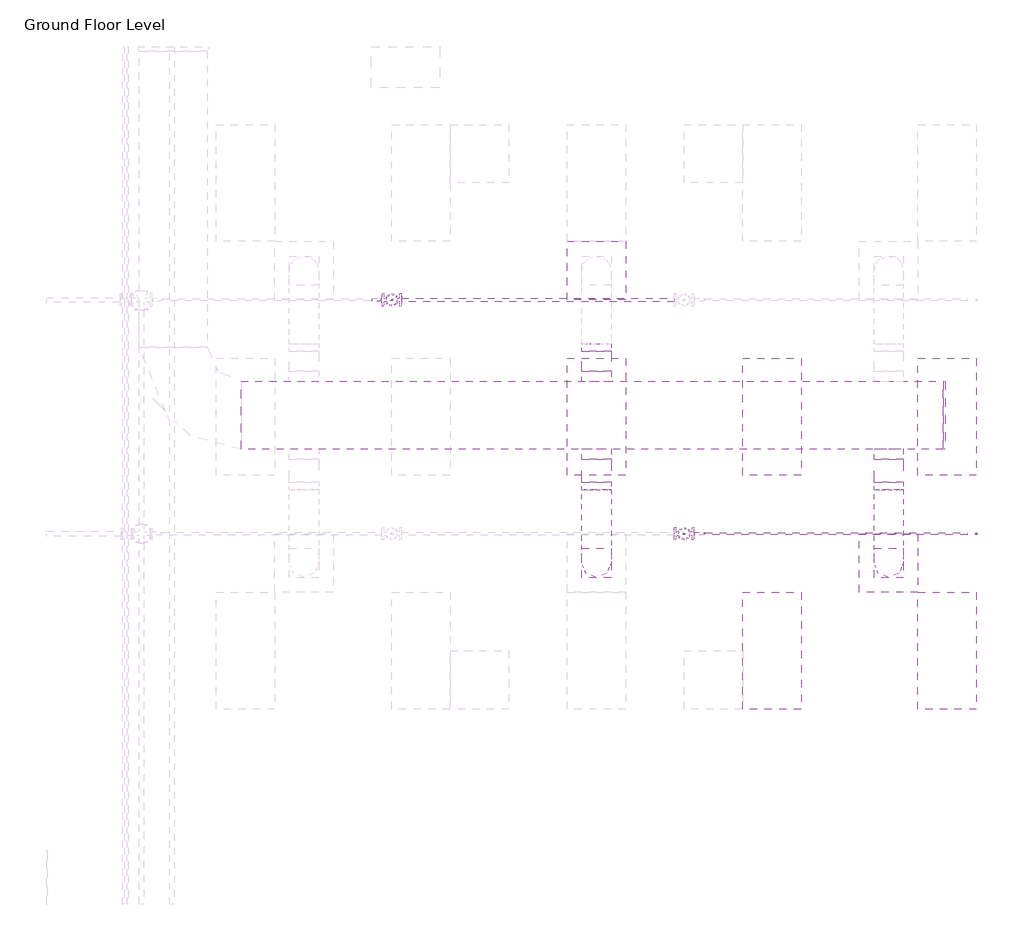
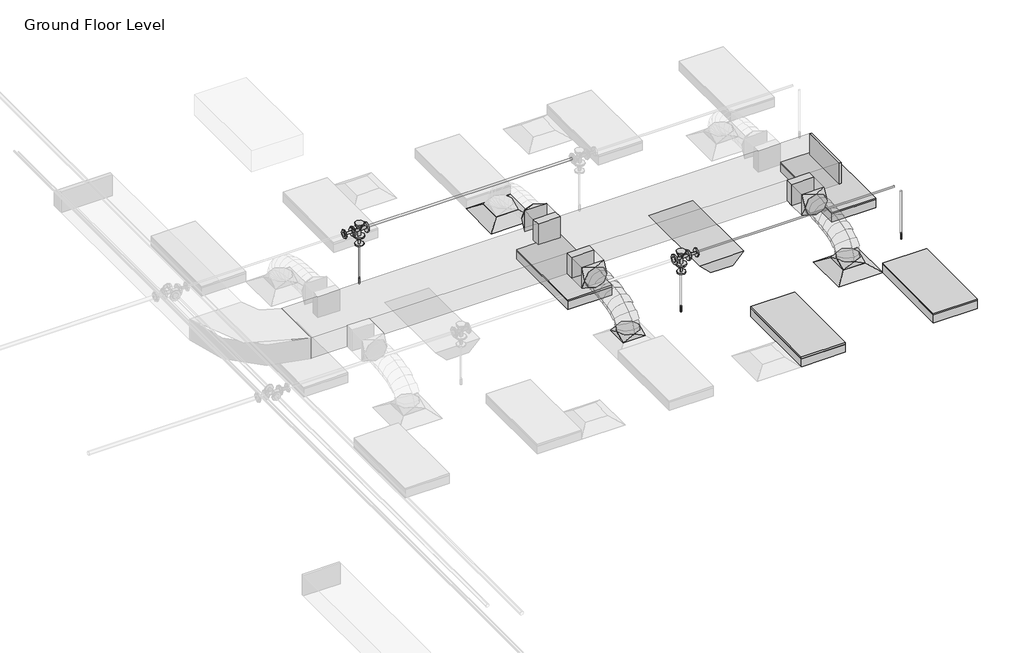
# One storey, part 31 of 66: 9 duct fittings, 6 duct segments, 6 pipe fittings, 5 light fixtures, 5 pipe segments, 3 fire suppression terminals, 2 air terminals.
"""IFC4 building model written with IfcOpenShell, lengths in millimetres."""

from ifc_helpers import new_model, si_unit, point, frame, frame_2d, origin, place, context, project, spatial, polyline, circle_curve, ellipse_curve, trimmed, segment, composite_curve, outline, extrude, transform, mapped, element, save
from ifc_brep_helpers import plane_surface, cylinder_surface, advanced_brep
from components import m_return_diffuser_600_x_600_face_300_x_300_connection_ff221211, m_rectangular_endcap_standard_7d4e98f4, m_rectangular_takeoff_standard_cb0ccb98, m_rectangular_takeoff_standard_2be5eba1, m_rectangular_to_round_transition_angle_45_degree_641efff0, m_sprinkler_dry_pendent_hosted_15_mm_dry_pendent_9bda8e11, m_emergency_recessed_lighting_fixture_600x1200_277_5b10b25d, m_troffer_light_parabolic_rectangular1_0600x1200mm_4_lamp_86473d4a, m_reducer_flanged_cs_class_150_standard_ccf252ad, m_tee_round_base_flanged_cs_class_150_standard_7e5987a1

model = new_model("IFC4")

# Units and contexts
model_context = context("Model", 3, world=origin())
ifc_project = project(units=[si_unit("LENGTHUNIT", "METRE", prefix="MILLI")], contexts=[model_context])

# Site, building, storey
site = spatial("IfcSite", under=ifc_project)
building = spatial("IfcBuilding", under=site)
storey = spatial("IfcBuildingStorey", under=building, Name="Ground Floor Level", Elevation=900.0)

# Air terminals
placement = place(None, origin())
m_return_diffuser_600_x_600_face_300_x_300_connection_shape = m_return_diffuser_600_x_600_face_300_x_300_connection_ff221211(model_context)
element("IfcAirTerminal", 1, ObjectType="M_Supply Diffuser : 600 x 600 Face 300 x 300 Connection", at=placement, inside=storey, context=model_context, shape_type="MappedRepresentation", body=[
    mapped(m_return_diffuser_600_x_600_face_300_x_300_connection_shape, transform((10352.7672395, -10664.7846466, 3650.0), x_axis=(1.0, 0.0, 0.0), y_axis=(0.0, 1.0, 0.0), z_axis=(0.0, 0.0, 1.0))),
])
element("IfcAirTerminal", 2, ObjectType="M_Supply Diffuser : 600 x 600 Face 300 x 300 Connection", at=placement, inside=storey, context=model_context, shape_type="MappedRepresentation", body=[
    mapped(m_return_diffuser_600_x_600_face_300_x_300_connection_shape, transform((13352.7672395, -13664.7846466, 3650.0), x_axis=(1.0, 0.0, 0.0), y_axis=(0.0, 1.0, 0.0), z_axis=(0.0, 0.0, 1.0))),
])

# Duct fittings
m_rectangular_endcap_standard_shape = m_rectangular_endcap_standard_7d4e98f4(model_context)
element("IfcDuctFitting", 3, ObjectType="M_Rectangular Endcap : Standard", at=placement, inside=storey, context=model_context, shape_type="MappedRepresentation", body=[
    mapped(m_rectangular_endcap_standard_shape, transform((13909.9139492, -12149.3358641, 4099.9875), x_axis=(1.0, 0.0, 0.0), y_axis=(0.0, 1.0, 0.0), z_axis=(0.0, 0.0, 1.0))),
])
m_rectangular_takeoff_standard_shape = m_rectangular_takeoff_standard_cb0ccb98(model_context)
element("IfcDuctFitting", 4, ObjectType="M_Rectangular Takeoff : Standard", at=placement, inside=storey, context=model_context, shape_type="MappedRepresentation", body=[
    mapped(m_rectangular_takeoff_standard_shape, transform((10352.7672395, -11799.3358641, 4099.9875), x_axis=(0.0, 1.0, 0.0), y_axis=(1.0, 0.0, 0.0), z_axis=(0.0, 0.0, -1.0))),
])
m_rectangular_takeoff_standard_2_shape = m_rectangular_takeoff_standard_2be5eba1(model_context)
element("IfcDuctFitting", 5, ObjectType="M_Rectangular Takeoff : Standard", at=placement, inside=storey, context=model_context, shape_type="MappedRepresentation", body=[
    mapped(m_rectangular_takeoff_standard_2_shape, transform((10352.7672395, -12499.3358641, 4099.9875), x_axis=(0.0, -1.0, 0.0), y_axis=(-1.0, 0.0, 0.0), z_axis=(0.0, 0.0, -1.0))),
])
element("IfcDuctFitting", 6, ObjectType="M_Rectangular Takeoff : Standard", at=placement, inside=storey, context=model_context, shape_type="MappedRepresentation", body=[
    mapped(m_rectangular_takeoff_standard_2_shape, transform((13352.7672395, -12499.3358641, 4099.9875), x_axis=(0.0, -1.0, 0.0), y_axis=(-1.0, 0.0, 0.0), z_axis=(0.0, 0.0, -1.0))),
])
m_rectangular_to_round_transition_angle_45_degree_shape = m_rectangular_to_round_transition_angle_45_degree_641efff0(model_context)
element("IfcDuctFitting", 7, ObjectType="M_Rectangular to Round Transition - Angle : 45 Degree", at=placement, inside=storey, context=model_context, shape_type="MappedRepresentation", body=[
    mapped(m_rectangular_to_round_transition_angle_45_degree_shape, transform((10352.7672395, -11492.1330779, 4099.9875), x_axis=(0.0, 1.0, 0.0), y_axis=(-1.0, 0.0, 0.0), z_axis=(0.0, 0.0, 1.0))),
])
element("IfcDuctFitting", 8, ObjectType="M_Rectangular to Round Transition - Angle : 45 Degree", at=placement, inside=storey, context=model_context, shape_type="MappedRepresentation", body=[
    mapped(m_rectangular_to_round_transition_angle_45_degree_shape, transform((10352.7672395, -13664.7846466, 3751.6), x_axis=(0.0, 0.0, 1.0), y_axis=(-1.0, 0.0, 0.0), z_axis=(0.0, -1.0, 0.0))),
])
element("IfcDuctFitting", 9, ObjectType="M_Rectangular to Round Transition - Angle : 45 Degree", at=placement, inside=storey, context=model_context, shape_type="MappedRepresentation", body=[
    mapped(m_rectangular_to_round_transition_angle_45_degree_shape, transform((10352.7672395, -12837.4362153, 4099.9875), x_axis=(0.0, -1.0, 0.0), y_axis=(1.0, 0.0, 0.0), z_axis=(0.0, 0.0, 1.0))),
])
element("IfcDuctFitting", 10, ObjectType="M_Rectangular to Round Transition - Angle : 45 Degree", at=placement, inside=storey, context=model_context, shape_type="MappedRepresentation", body=[
    mapped(m_rectangular_to_round_transition_angle_45_degree_shape, transform((13352.7672395, -13664.7846466, 3751.6), x_axis=(0.0, 0.0, 1.0), y_axis=(-1.0, 0.0, 0.0), z_axis=(0.0, -1.0, 0.0))),
])
element("IfcDuctFitting", 11, ObjectType="M_Rectangular to Round Transition - Angle : 45 Degree", at=placement, inside=storey, context=model_context, shape_type="MappedRepresentation", body=[
    mapped(m_rectangular_to_round_transition_angle_45_degree_shape, transform((13352.7672395, -12837.4362153, 4099.9875), x_axis=(0.0, -1.0, 0.0), y_axis=(1.0, 0.0, 0.0), z_axis=(0.0, 0.0, 1.0))),
])

# Duct segments
element("IfcDuctSegment", 12, ObjectType="Flex - Round", at=placement, inside=storey, context=model_context, shape_type="AdvancedBrep", body=[
    advanced_brep(
    [(10502.7672395, -13664.7846466, 3826.6), (10352.7672395, -13814.7846466, 3826.6), (10202.7672395, -13664.7846466, 3826.6), (10352.7672395, -13514.7846466, 3826.6), (10502.7672395, -13664.7846466, 3857.9382361), (10352.7672395, -13814.7846466, 3883.5820996), (10202.7672395, -13664.7846466, 3857.9382361), (10352.7672395, -13514.7846466, 3832.2943726), (10502.7672395, -13647.7683675, 3906.2508008), (10352.7672395, -13781.5055592, 3978.0679769), (10202.7672395, -13647.7683675, 3906.2508008), (10352.7672395, -13514.0311758, 3834.4336246), (10502.7672395, -13600.5835435, 3968.710741), (10352.7672395, -13704.7873032, 4079.6221903), (10202.7672395, -13600.5835435, 3968.710741), (10352.7672395, -13496.3797837, 3857.7992917), (10502.7672395, -13529.0261948, 4016.0679312), (10352.7672395, -13597.9568789, 4150.3233665), (10202.7672395, -13529.0261948, 4016.0679312), (10352.7672395, -13460.0955107, 3881.8124958), (10502.7672395, -13438.8923417, 4050.4104815), (10352.7672395, -13482.4494195, 4194.3336978), (10202.7672395, -13438.8923417, 4050.4104815), (10352.7672395, -13395.3352638, 3906.4872652), (10502.7672395, -13335.9780043, 4073.8265025), (10352.7672395, -13362.5354348, 4221.6176356), (10202.7672395, -13335.9780043, 4073.8265025), (10352.7672395, -13309.4205737, 3926.0353694), (10502.7672395, -13226.0792027, 4088.4041045), (10352.7672395, -13241.2270687, 4237.7086671), (10202.7672395, -13226.0792027, 4088.4041045), (10352.7672395, -13210.9313368, 3939.0995418), (10502.7672395, -13114.9919573, 4096.2313978), (10352.7672395, -13122.4949231, 4246.074626), (10202.7672395, -13114.9919573, 4096.2313978), (10352.7672395, -13107.4889914, 3946.3881695), (10502.7672395, -13008.5122881, 4099.3964928), (10352.7672395, -13011.2023931, 4249.3827828), (10202.7672395, -13008.5122881, 4099.3964928), (10352.7672395, -13005.8221831, 3949.4102029), (10502.7672395, -12912.4362153, 4099.9875), (10352.7672395, -12911.5135153, 3949.9903379), (10202.7672395, -12912.4362153, 4099.9875), (10352.7672395, -12913.3589154, 4249.9846621)],
    [
        (0, 1, circle_curve(frame((10352.7672395, -13664.7846466, 3826.6), z_axis=(0.0, 0.0, -1.0), x_axis=(1.0, 0.0, 0.0)), 150.0)),
        (1, 2, circle_curve(frame((10352.7672395, -13664.7846466, 3826.6), z_axis=(0.0, 0.0, -1.0), x_axis=(1.0, 0.0, 0.0)), 150.0)),
        (2, 3, circle_curve(frame((10352.7672395, -13664.7846466, 3826.6), z_axis=(0.0, 0.0, -1.0), x_axis=(1.0, 0.0, 0.0)), 150.0)),
        (3, 0, circle_curve(frame((10352.7672395, -13664.7846466, 3826.6), z_axis=(0.0, 0.0, -1.0), x_axis=(1.0, 0.0, 0.0)), 150.0)),
        (0, 4),
        (4, 5, ellipse_curve(frame((10352.7672395, -13664.7846466, 3857.9382361), z_axis=(0.0, -0.16851424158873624, -0.9856992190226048), x_axis=(0.0, 0.9856992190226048, -0.16851424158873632)), 152.1762391, 150.0)),
        (5, 1),
        (5, 6, ellipse_curve(frame((10352.7672395, -13664.7846466, 3857.9382361), z_axis=(0.0, -0.16851424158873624, -0.9856992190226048), x_axis=(0.0, 0.9856992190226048, -0.16851424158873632)), 152.1762391, 150.0)),
        (6, 2),
        (6, 7, ellipse_curve(frame((10352.7672395, -13664.7846466, 3857.9382361), z_axis=(0.0, -0.16851424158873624, -0.9856992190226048), x_axis=(0.0, 0.9856992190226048, -0.16851424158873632)), 152.1762391, 150.0)),
        (7, 3),
        (7, 4, ellipse_curve(frame((10352.7672395, -13664.7846466, 3857.9382361), z_axis=(0.0, -0.16851424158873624, -0.9856992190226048), x_axis=(0.0, 0.9856992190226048, -0.16851424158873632)), 152.1762391, 150.0)),
        (4, 8),
        (8, 9, ellipse_curve(frame((10352.7672395, -13647.7683675, 3906.2508008), z_axis=(0.0, -0.4731028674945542, -0.8810071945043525), x_axis=(0.0, 0.8810071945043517, -0.47310286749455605)), 151.80034, 150.0)),
        (9, 5),
        (9, 10, ellipse_curve(frame((10352.7672395, -13647.7683675, 3906.2508008), z_axis=(0.0, -0.4731028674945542, -0.8810071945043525), x_axis=(0.0, 0.8810071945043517, -0.47310286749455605)), 151.80034, 150.0)),
        (10, 6),
        (10, 11, ellipse_curve(frame((10352.7672395, -13647.7683675, 3906.2508008), z_axis=(0.0, -0.4731028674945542, -0.8810071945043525), x_axis=(0.0, 0.8810071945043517, -0.47310286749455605)), 151.80034, 150.0)),
        (11, 7),
        (11, 8, ellipse_curve(frame((10352.7672395, -13647.7683675, 3906.2508008), z_axis=(0.0, -0.4731028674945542, -0.8810071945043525), x_axis=(0.0, 0.8810071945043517, -0.47310286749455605)), 151.80034, 150.0)),
        (8, 12),
        (12, 13, ellipse_curve(frame((10352.7672395, -13600.5835435, 3968.710741), z_axis=(0.0, -0.728801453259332, -0.6847250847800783), x_axis=(0.0, 0.6847250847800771, -0.7288014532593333)), 152.1833536, 150.0)),
        (13, 9),
        (13, 14, ellipse_curve(frame((10352.7672395, -13600.5835435, 3968.710741), z_axis=(0.0, -0.728801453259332, -0.6847250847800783), x_axis=(0.0, 0.6847250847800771, -0.7288014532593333)), 152.1833536, 150.0)),
        (14, 10),
        (14, 15, ellipse_curve(frame((10352.7672395, -13600.5835435, 3968.710741), z_axis=(0.0, -0.728801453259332, -0.6847250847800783), x_axis=(0.0, 0.6847250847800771, -0.7288014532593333)), 152.1833536, 150.0)),
        (15, 11),
        (15, 12, ellipse_curve(frame((10352.7672395, -13600.5835435, 3968.710741), z_axis=(0.0, -0.728801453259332, -0.6847250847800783), x_axis=(0.0, 0.6847250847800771, -0.7288014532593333)), 152.1833536, 150.0)),
        (12, 16),
        (16, 17, ellipse_curve(frame((10352.7672395, -13529.0261948, 4016.0679312), z_axis=(0.0, -0.889597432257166, -0.45674545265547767), x_axis=(0.0, 0.4567454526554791, -0.8895974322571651)), 150.9170671, 150.0)),
        (17, 13),
        (17, 18, ellipse_curve(frame((10352.7672395, -13529.0261948, 4016.0679312), z_axis=(0.0, -0.889597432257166, -0.45674545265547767), x_axis=(0.0, 0.4567454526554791, -0.8895974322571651)), 150.9170671, 150.0)),
        (18, 14),
        (18, 19, ellipse_curve(frame((10352.7672395, -13529.0261948, 4016.0679312), z_axis=(0.0, -0.889597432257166, -0.45674545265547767), x_axis=(0.0, 0.4567454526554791, -0.8895974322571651)), 150.9170671, 150.0)),
        (19, 15),
        (19, 16, ellipse_curve(frame((10352.7672395, -13529.0261948, 4016.0679312), z_axis=(0.0, -0.889597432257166, -0.45674545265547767), x_axis=(0.0, 0.4567454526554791, -0.8895974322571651)), 150.9170671, 150.0)),
        (16, 20),
        (20, 21, ellipse_curve(frame((10352.7672395, -13438.8923417, 4050.4104815), z_axis=(0.0, -0.9571277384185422, -0.28966617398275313), x_axis=(0.0, 0.28966617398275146, -0.9571277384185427)), 150.3699146, 150.0)),
        (21, 17),
        (21, 22, ellipse_curve(frame((10352.7672395, -13438.8923417, 4050.4104815), z_axis=(0.0, -0.9571277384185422, -0.28966617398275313), x_axis=(0.0, 0.28966617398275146, -0.9571277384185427)), 150.3699146, 150.0)),
        (22, 18),
        (22, 23, ellipse_curve(frame((10352.7672395, -13438.8923417, 4050.4104815), z_axis=(0.0, -0.9571277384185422, -0.28966617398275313), x_axis=(0.0, 0.28966617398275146, -0.9571277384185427)), 150.3699146, 150.0)),
        (23, 19),
        (23, 20, ellipse_curve(frame((10352.7672395, -13438.8923417, 4050.4104815), z_axis=(0.0, -0.9571277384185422, -0.28966617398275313), x_axis=(0.0, 0.28966617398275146, -0.9571277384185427)), 150.3699146, 150.0)),
        (20, 24),
        (24, 25, ellipse_curve(frame((10352.7672395, -13335.9780043, 4073.8265025), z_axis=(0.0, -0.9842355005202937, -0.17686288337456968), x_axis=(0.0, 0.17686288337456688, -0.9842355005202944)), 150.1583036, 150.0)),
        (25, 21),
        (25, 26, ellipse_curve(frame((10352.7672395, -13335.9780043, 4073.8265025), z_axis=(0.0, -0.9842355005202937, -0.17686288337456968), x_axis=(0.0, 0.17686288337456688, -0.9842355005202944)), 150.1583036, 150.0)),
        (26, 22),
        (26, 27, ellipse_curve(frame((10352.7672395, -13335.9780043, 4073.8265025), z_axis=(0.0, -0.9842355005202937, -0.17686288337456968), x_axis=(0.0, 0.17686288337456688, -0.9842355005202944)), 150.1583036, 150.0)),
        (27, 23),
        (27, 24, ellipse_curve(frame((10352.7672395, -13335.9780043, 4073.8265025), z_axis=(0.0, -0.9842355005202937, -0.17686288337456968), x_axis=(0.0, 0.17686288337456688, -0.9842355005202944)), 150.1583036, 150.0)),
        (24, 28),
        (28, 29, ellipse_curve(frame((10352.7672395, -13226.0792027, 4088.4041045), z_axis=(0.0, -0.9948927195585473, -0.10093798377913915), x_axis=(0.0, 0.10093798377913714, -0.9948927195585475)), 150.0710174, 150.0)),
        (29, 25),
        (29, 30, ellipse_curve(frame((10352.7672395, -13226.0792027, 4088.4041045), z_axis=(0.0, -0.9948927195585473, -0.10093798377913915), x_axis=(0.0, 0.10093798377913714, -0.9948927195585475)), 150.0710174, 150.0)),
        (30, 26),
        (30, 31, ellipse_curve(frame((10352.7672395, -13226.0792027, 4088.4041045), z_axis=(0.0, -0.9948927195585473, -0.10093798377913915), x_axis=(0.0, 0.10093798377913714, -0.9948927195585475)), 150.0710174, 150.0)),
        (31, 27),
        (31, 28, ellipse_curve(frame((10352.7672395, -13226.0792027, 4088.4041045), z_axis=(0.0, -0.9948927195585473, -0.10093798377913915), x_axis=(0.0, 0.10093798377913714, -0.9948927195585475)), 150.0710174, 150.0)),
        (28, 32),
        (32, 33, ellipse_curve(frame((10352.7672395, -13114.9919573, 4096.2313978), z_axis=(0.0, -0.9987487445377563, -0.050009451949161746), x_axis=(0.0, 0.05000945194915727, -0.9987487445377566)), 150.0309553, 150.0)),
        (33, 29),
        (33, 34, ellipse_curve(frame((10352.7672395, -13114.9919573, 4096.2313978), z_axis=(0.0, -0.9987487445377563, -0.050009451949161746), x_axis=(0.0, 0.05000945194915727, -0.9987487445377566)), 150.0309553, 150.0)),
        (34, 30),
        (34, 35, ellipse_curve(frame((10352.7672395, -13114.9919573, 4096.2313978), z_axis=(0.0, -0.9987487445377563, -0.050009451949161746), x_axis=(0.0, 0.05000945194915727, -0.9987487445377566)), 150.0309553, 150.0)),
        (35, 31),
        (35, 32, ellipse_curve(frame((10352.7672395, -13114.9919573, 4096.2313978), z_axis=(0.0, -0.9987487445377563, -0.050009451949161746), x_axis=(0.0, 0.05000945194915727, -0.9987487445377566)), 150.0309553, 150.0)),
        (32, 36),
        (36, 37, ellipse_curve(frame((10352.7672395, -13008.5122881, 4099.3964928), z_axis=(0.0, -0.9998391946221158, -0.017932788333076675), x_axis=(0.0, 0.01793278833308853, -0.9998391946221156)), 150.0104124, 150.0)),
        (37, 33),
        (37, 38, ellipse_curve(frame((10352.7672395, -13008.5122881, 4099.3964928), z_axis=(0.0, -0.9998391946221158, -0.017932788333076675), x_axis=(0.0, 0.01793278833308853, -0.9998391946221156)), 150.0104124, 150.0)),
        (38, 34),
        (38, 39, ellipse_curve(frame((10352.7672395, -13008.5122881, 4099.3964928), z_axis=(0.0, -0.9998391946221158, -0.017932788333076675), x_axis=(0.0, 0.01793278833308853, -0.9998391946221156)), 150.0104124, 150.0)),
        (39, 35),
        (39, 36, ellipse_curve(frame((10352.7672395, -13008.5122881, 4099.3964928), z_axis=(0.0, -0.9998391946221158, -0.017932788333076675), x_axis=(0.0, 0.01793278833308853, -0.9998391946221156)), 150.0104124, 150.0)),
        (40, 41, circle_curve(frame((10352.7672395, -12912.4362153, 4099.9875), z_axis=(0.0, 0.9999810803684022, 0.0061513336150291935), x_axis=(1.0, 0.0, 0.0)), 150.0)),
        (41, 42, circle_curve(frame((10352.7672395, -12912.4362153, 4099.9875), z_axis=(0.0, 0.9999810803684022, 0.0061513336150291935), x_axis=(1.0, 0.0, 0.0)), 150.0)),
        (42, 43, circle_curve(frame((10352.7672395, -12912.4362153, 4099.9875), z_axis=(0.0, 0.9999810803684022, 0.0061513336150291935), x_axis=(1.0, 0.0, 0.0)), 150.0)),
        (43, 40, circle_curve(frame((10352.7672395, -12912.4362153, 4099.9875), z_axis=(0.0, 0.9999810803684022, 0.0061513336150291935), x_axis=(1.0, 0.0, 0.0)), 150.0)),
        (36, 40),
        (43, 37),
        (42, 38),
        (41, 39),
    ],
    [
        plane_surface(frame((10352.7672395, -13814.7846466, 3826.6), z_axis=(0.0, 0.0, -1.0), x_axis=(1.0, 0.0, 0.0))),
        cylinder_surface(frame((10352.7672395, -13664.7846466, 3826.6), z_axis=(0.0, 0.0, -1.0), x_axis=(1.0, 0.0, 0.0)), 150.0),
        cylinder_surface(frame((10352.7672395, -13664.7846466, 3857.9382361), z_axis=(0.0, -0.3322087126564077, -0.943205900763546), x_axis=(1.0, 0.0, 0.0)), 150.0),
        cylinder_surface(frame((10352.7672395, -13647.7683675, 3906.2508008), z_axis=(0.0, -0.6027750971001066, -0.797911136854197), x_axis=(1.0, 0.0, 0.0)), 150.0),
        cylinder_surface(frame((10352.7672395, -13600.5835435, 3968.710741), z_axis=(0.0, -0.8339157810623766, -0.5518917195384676), x_axis=(1.0, 0.0, 0.0)), 150.0),
        cylinder_surface(frame((10352.7672395, -13529.0261948, 4016.0679312), z_axis=(0.0, -0.9344675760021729, -0.3560482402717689), x_axis=(1.0, 0.0, 0.0)), 150.0),
        cylinder_surface(frame((10352.7672395, -13438.8923417, 4050.4104815), z_axis=(0.0, -0.9750787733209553, -0.2218589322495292), x_axis=(1.0, 0.0, 0.0)), 150.0),
        cylinder_surface(frame((10352.7672395, -13335.9780043, 4073.8265025), z_axis=(0.0, -0.9913169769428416, -0.13149392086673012), x_axis=(1.0, 0.0, 0.0)), 150.0),
        cylinder_surface(frame((10352.7672395, -13226.0792027, 4088.4041045), z_axis=(0.0, -0.9975268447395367, -0.07028651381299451), x_axis=(1.0, 0.0, 0.0)), 150.0),
        cylinder_surface(frame((10352.7672395, -13114.9919573, 4096.2313978), z_axis=(0.0, -0.999558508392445, -0.02971175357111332), x_axis=(1.0, 0.0, 0.0)), 150.0),
        plane_surface(frame((10352.7672395, -12913.3589154, 4249.9846621), z_axis=(0.0, 0.9999810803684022, 0.006151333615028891), x_axis=(1.0, 0.0, 0.0))),
        cylinder_surface(frame((10352.7672395, -13008.5122881, 4099.3964928), z_axis=(0.0, -0.9999810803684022, -0.0061513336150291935), x_axis=(1.0, 0.0, 0.0)), 150.0),
    ],
    [
        (0, [[1, 2, 3, 4]]),
        (1, [[-1, 5, 6, 7]]),
        (1, [[-2, -7, 8, 9]]),
        (1, [[-3, -9, 10, 11]]),
        (1, [[-4, -11, 12, -5]]),
        (2, [[-6, 13, 14, 15]]),
        (2, [[-8, -15, 16, 17]]),
        (2, [[-10, -17, 18, 19]]),
        (2, [[-12, -19, 20, -13]]),
        (3, [[-14, 21, 22, 23]]),
        (3, [[-16, -23, 24, 25]]),
        (3, [[-18, -25, 26, 27]]),
        (3, [[-20, -27, 28, -21]]),
        (4, [[-22, 29, 30, 31]]),
        (4, [[-24, -31, 32, 33]]),
        (4, [[-26, -33, 34, 35]]),
        (4, [[-28, -35, 36, -29]]),
        (5, [[-30, 37, 38, 39]]),
        (5, [[-32, -39, 40, 41]]),
        (5, [[-34, -41, 42, 43]]),
        (5, [[-36, -43, 44, -37]]),
        (6, [[-38, 45, 46, 47]]),
        (6, [[-40, -47, 48, 49]]),
        (6, [[-42, -49, 50, 51]]),
        (6, [[-44, -51, 52, -45]]),
        (7, [[-46, 53, 54, 55]]),
        (7, [[-48, -55, 56, 57]]),
        (7, [[-50, -57, 58, 59]]),
        (7, [[-52, -59, 60, -53]]),
        (8, [[-54, 61, 62, 63]]),
        (8, [[-56, -63, 64, 65]]),
        (8, [[-58, -65, 66, 67]]),
        (8, [[-60, -67, 68, -61]]),
        (9, [[-62, 69, 70, 71]]),
        (9, [[-64, -71, 72, 73]]),
        (9, [[-66, -73, 74, 75]]),
        (9, [[-68, -75, 76, -69]]),
        (10, [[77, 78, 79, 80]]),
        (11, [[-70, 81, -80, 82]]),
        (11, [[-72, -82, -79, 83]]),
        (11, [[-74, -83, -78, 84]]),
        (11, [[-76, -84, -77, -81]]),
    ],
),
])
element("IfcDuctSegment", 13, ObjectType="Flex - Round", at=placement, inside=storey, context=model_context, shape_type="AdvancedBrep", body=[
    advanced_brep(
    [(13502.7672395, -13664.7846466, 3826.6), (13352.7672395, -13814.7846466, 3826.6), (13202.7672395, -13664.7846466, 3826.6), (13352.7672395, -13514.7846466, 3826.6), (13502.7672395, -13664.7846466, 3857.9382361), (13352.7672395, -13814.7846466, 3883.5820996), (13202.7672395, -13664.7846466, 3857.9382361), (13352.7672395, -13514.7846466, 3832.2943726), (13502.7672395, -13647.7683675, 3906.2508008), (13352.7672395, -13781.5055592, 3978.0679769), (13202.7672395, -13647.7683675, 3906.2508008), (13352.7672395, -13514.0311758, 3834.4336246), (13502.7672395, -13600.5835435, 3968.710741), (13352.7672395, -13704.7873032, 4079.6221903), (13202.7672395, -13600.5835435, 3968.710741), (13352.7672395, -13496.3797837, 3857.7992917), (13502.7672395, -13529.0261948, 4016.0679312), (13352.7672395, -13597.9568789, 4150.3233665), (13202.7672395, -13529.0261948, 4016.0679312), (13352.7672395, -13460.0955107, 3881.8124958), (13502.7672395, -13438.8923417, 4050.4104815), (13352.7672395, -13482.4494195, 4194.3336978), (13202.7672395, -13438.8923417, 4050.4104815), (13352.7672395, -13395.3352638, 3906.4872652), (13502.7672395, -13335.9780043, 4073.8265025), (13352.7672395, -13362.5354348, 4221.6176356), (13202.7672395, -13335.9780043, 4073.8265025), (13352.7672395, -13309.4205737, 3926.0353694), (13502.7672395, -13226.0792027, 4088.4041045), (13352.7672395, -13241.2270687, 4237.7086671), (13202.7672395, -13226.0792027, 4088.4041045), (13352.7672395, -13210.9313368, 3939.0995418), (13502.7672395, -13114.9919573, 4096.2313978), (13352.7672395, -13122.4949231, 4246.074626), (13202.7672395, -13114.9919573, 4096.2313978), (13352.7672395, -13107.4889914, 3946.3881695), (13502.7672395, -13008.5122881, 4099.3964928), (13352.7672395, -13011.2023931, 4249.3827828), (13202.7672395, -13008.5122881, 4099.3964928), (13352.7672395, -13005.8221831, 3949.4102029), (13502.7672395, -12912.4362153, 4099.9875), (13352.7672395, -12911.5135153, 3949.9903379), (13202.7672395, -12912.4362153, 4099.9875), (13352.7672395, -12913.3589154, 4249.9846621)],
    [
        (0, 1, circle_curve(frame((13352.7672395, -13664.7846466, 3826.6), z_axis=(0.0, 0.0, -1.0), x_axis=(1.0, 0.0, 0.0)), 150.0)),
        (1, 2, circle_curve(frame((13352.7672395, -13664.7846466, 3826.6), z_axis=(0.0, 0.0, -1.0), x_axis=(1.0, 0.0, 0.0)), 150.0)),
        (2, 3, circle_curve(frame((13352.7672395, -13664.7846466, 3826.6), z_axis=(0.0, 0.0, -1.0), x_axis=(1.0, 0.0, 0.0)), 150.0)),
        (3, 0, circle_curve(frame((13352.7672395, -13664.7846466, 3826.6), z_axis=(0.0, 0.0, -1.0), x_axis=(1.0, 0.0, 0.0)), 150.0)),
        (0, 4),
        (4, 5, ellipse_curve(frame((13352.7672395, -13664.7846466, 3857.9382361), z_axis=(0.0, -0.16851424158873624, -0.9856992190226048), x_axis=(0.0, 0.9856992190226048, -0.16851424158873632)), 152.1762391, 150.0)),
        (5, 1),
        (5, 6, ellipse_curve(frame((13352.7672395, -13664.7846466, 3857.9382361), z_axis=(0.0, -0.16851424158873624, -0.9856992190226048), x_axis=(0.0, 0.9856992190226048, -0.16851424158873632)), 152.1762391, 150.0)),
        (6, 2),
        (6, 7, ellipse_curve(frame((13352.7672395, -13664.7846466, 3857.9382361), z_axis=(0.0, -0.16851424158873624, -0.9856992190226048), x_axis=(0.0, 0.9856992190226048, -0.16851424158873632)), 152.1762391, 150.0)),
        (7, 3),
        (7, 4, ellipse_curve(frame((13352.7672395, -13664.7846466, 3857.9382361), z_axis=(0.0, -0.16851424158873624, -0.9856992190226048), x_axis=(0.0, 0.9856992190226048, -0.16851424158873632)), 152.1762391, 150.0)),
        (4, 8),
        (8, 9, ellipse_curve(frame((13352.7672395, -13647.7683675, 3906.2508008), z_axis=(0.0, -0.4731028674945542, -0.8810071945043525), x_axis=(0.0, 0.8810071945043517, -0.47310286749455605)), 151.80034, 150.0)),
        (9, 5),
        (9, 10, ellipse_curve(frame((13352.7672395, -13647.7683675, 3906.2508008), z_axis=(0.0, -0.4731028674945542, -0.8810071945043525), x_axis=(0.0, 0.8810071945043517, -0.47310286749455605)), 151.80034, 150.0)),
        (10, 6),
        (10, 11, ellipse_curve(frame((13352.7672395, -13647.7683675, 3906.2508008), z_axis=(0.0, -0.4731028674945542, -0.8810071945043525), x_axis=(0.0, 0.8810071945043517, -0.47310286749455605)), 151.80034, 150.0)),
        (11, 7),
        (11, 8, ellipse_curve(frame((13352.7672395, -13647.7683675, 3906.2508008), z_axis=(0.0, -0.4731028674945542, -0.8810071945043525), x_axis=(0.0, 0.8810071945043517, -0.47310286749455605)), 151.80034, 150.0)),
        (8, 12),
        (12, 13, ellipse_curve(frame((13352.7672395, -13600.5835435, 3968.710741), z_axis=(0.0, -0.728801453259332, -0.6847250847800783), x_axis=(0.0, 0.6847250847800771, -0.7288014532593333)), 152.1833536, 150.0)),
        (13, 9),
        (13, 14, ellipse_curve(frame((13352.7672395, -13600.5835435, 3968.710741), z_axis=(0.0, -0.728801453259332, -0.6847250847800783), x_axis=(0.0, 0.6847250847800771, -0.7288014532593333)), 152.1833536, 150.0)),
        (14, 10),
        (14, 15, ellipse_curve(frame((13352.7672395, -13600.5835435, 3968.710741), z_axis=(0.0, -0.728801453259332, -0.6847250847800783), x_axis=(0.0, 0.6847250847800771, -0.7288014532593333)), 152.1833536, 150.0)),
        (15, 11),
        (15, 12, ellipse_curve(frame((13352.7672395, -13600.5835435, 3968.710741), z_axis=(0.0, -0.728801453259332, -0.6847250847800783), x_axis=(0.0, 0.6847250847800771, -0.7288014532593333)), 152.1833536, 150.0)),
        (12, 16),
        (16, 17, ellipse_curve(frame((13352.7672395, -13529.0261948, 4016.0679312), z_axis=(0.0, -0.889597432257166, -0.45674545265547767), x_axis=(0.0, 0.4567454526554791, -0.8895974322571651)), 150.9170671, 150.0)),
        (17, 13),
        (17, 18, ellipse_curve(frame((13352.7672395, -13529.0261948, 4016.0679312), z_axis=(0.0, -0.889597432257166, -0.45674545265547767), x_axis=(0.0, 0.4567454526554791, -0.8895974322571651)), 150.9170671, 150.0)),
        (18, 14),
        (18, 19, ellipse_curve(frame((13352.7672395, -13529.0261948, 4016.0679312), z_axis=(0.0, -0.889597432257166, -0.45674545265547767), x_axis=(0.0, 0.4567454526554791, -0.8895974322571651)), 150.9170671, 150.0)),
        (19, 15),
        (19, 16, ellipse_curve(frame((13352.7672395, -13529.0261948, 4016.0679312), z_axis=(0.0, -0.889597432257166, -0.45674545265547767), x_axis=(0.0, 0.4567454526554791, -0.8895974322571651)), 150.9170671, 150.0)),
        (16, 20),
        (20, 21, ellipse_curve(frame((13352.7672395, -13438.8923417, 4050.4104815), z_axis=(0.0, -0.9571277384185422, -0.28966617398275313), x_axis=(0.0, 0.28966617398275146, -0.9571277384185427)), 150.3699146, 150.0)),
        (21, 17),
        (21, 22, ellipse_curve(frame((13352.7672395, -13438.8923417, 4050.4104815), z_axis=(0.0, -0.9571277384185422, -0.28966617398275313), x_axis=(0.0, 0.28966617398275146, -0.9571277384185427)), 150.3699146, 150.0)),
        (22, 18),
        (22, 23, ellipse_curve(frame((13352.7672395, -13438.8923417, 4050.4104815), z_axis=(0.0, -0.9571277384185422, -0.28966617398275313), x_axis=(0.0, 0.28966617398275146, -0.9571277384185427)), 150.3699146, 150.0)),
        (23, 19),
        (23, 20, ellipse_curve(frame((13352.7672395, -13438.8923417, 4050.4104815), z_axis=(0.0, -0.9571277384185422, -0.28966617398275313), x_axis=(0.0, 0.28966617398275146, -0.9571277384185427)), 150.3699146, 150.0)),
        (20, 24),
        (24, 25, ellipse_curve(frame((13352.7672395, -13335.9780043, 4073.8265025), z_axis=(0.0, -0.9842355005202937, -0.17686288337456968), x_axis=(0.0, 0.17686288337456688, -0.9842355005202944)), 150.1583036, 150.0)),
        (25, 21),
        (25, 26, ellipse_curve(frame((13352.7672395, -13335.9780043, 4073.8265025), z_axis=(0.0, -0.9842355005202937, -0.17686288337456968), x_axis=(0.0, 0.17686288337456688, -0.9842355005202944)), 150.1583036, 150.0)),
        (26, 22),
        (26, 27, ellipse_curve(frame((13352.7672395, -13335.9780043, 4073.8265025), z_axis=(0.0, -0.9842355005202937, -0.17686288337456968), x_axis=(0.0, 0.17686288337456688, -0.9842355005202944)), 150.1583036, 150.0)),
        (27, 23),
        (27, 24, ellipse_curve(frame((13352.7672395, -13335.9780043, 4073.8265025), z_axis=(0.0, -0.9842355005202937, -0.17686288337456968), x_axis=(0.0, 0.17686288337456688, -0.9842355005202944)), 150.1583036, 150.0)),
        (24, 28),
        (28, 29, ellipse_curve(frame((13352.7672395, -13226.0792027, 4088.4041045), z_axis=(0.0, -0.9948927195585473, -0.10093798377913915), x_axis=(0.0, 0.10093798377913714, -0.9948927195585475)), 150.0710174, 150.0)),
        (29, 25),
        (29, 30, ellipse_curve(frame((13352.7672395, -13226.0792027, 4088.4041045), z_axis=(0.0, -0.9948927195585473, -0.10093798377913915), x_axis=(0.0, 0.10093798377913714, -0.9948927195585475)), 150.0710174, 150.0)),
        (30, 26),
        (30, 31, ellipse_curve(frame((13352.7672395, -13226.0792027, 4088.4041045), z_axis=(0.0, -0.9948927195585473, -0.10093798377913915), x_axis=(0.0, 0.10093798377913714, -0.9948927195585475)), 150.0710174, 150.0)),
        (31, 27),
        (31, 28, ellipse_curve(frame((13352.7672395, -13226.0792027, 4088.4041045), z_axis=(0.0, -0.9948927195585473, -0.10093798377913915), x_axis=(0.0, 0.10093798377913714, -0.9948927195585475)), 150.0710174, 150.0)),
        (28, 32),
        (32, 33, ellipse_curve(frame((13352.7672395, -13114.9919573, 4096.2313978), z_axis=(0.0, -0.9987487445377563, -0.050009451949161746), x_axis=(0.0, 0.05000945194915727, -0.9987487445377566)), 150.0309553, 150.0)),
        (33, 29),
        (33, 34, ellipse_curve(frame((13352.7672395, -13114.9919573, 4096.2313978), z_axis=(0.0, -0.9987487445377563, -0.050009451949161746), x_axis=(0.0, 0.05000945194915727, -0.9987487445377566)), 150.0309553, 150.0)),
        (34, 30),
        (34, 35, ellipse_curve(frame((13352.7672395, -13114.9919573, 4096.2313978), z_axis=(0.0, -0.9987487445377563, -0.050009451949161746), x_axis=(0.0, 0.05000945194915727, -0.9987487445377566)), 150.0309553, 150.0)),
        (35, 31),
        (35, 32, ellipse_curve(frame((13352.7672395, -13114.9919573, 4096.2313978), z_axis=(0.0, -0.9987487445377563, -0.050009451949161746), x_axis=(0.0, 0.05000945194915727, -0.9987487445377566)), 150.0309553, 150.0)),
        (32, 36),
        (36, 37, ellipse_curve(frame((13352.7672395, -13008.5122881, 4099.3964928), z_axis=(0.0, -0.9998391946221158, -0.017932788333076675), x_axis=(0.0, 0.01793278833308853, -0.9998391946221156)), 150.0104124, 150.0)),
        (37, 33),
        (37, 38, ellipse_curve(frame((13352.7672395, -13008.5122881, 4099.3964928), z_axis=(0.0, -0.9998391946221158, -0.017932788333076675), x_axis=(0.0, 0.01793278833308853, -0.9998391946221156)), 150.0104124, 150.0)),
        (38, 34),
        (38, 39, ellipse_curve(frame((13352.7672395, -13008.5122881, 4099.3964928), z_axis=(0.0, -0.9998391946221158, -0.017932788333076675), x_axis=(0.0, 0.01793278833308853, -0.9998391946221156)), 150.0104124, 150.0)),
        (39, 35),
        (39, 36, ellipse_curve(frame((13352.7672395, -13008.5122881, 4099.3964928), z_axis=(0.0, -0.9998391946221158, -0.017932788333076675), x_axis=(0.0, 0.01793278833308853, -0.9998391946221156)), 150.0104124, 150.0)),
        (40, 41, circle_curve(frame((13352.7672395, -12912.4362153, 4099.9875), z_axis=(0.0, 0.9999810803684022, 0.0061513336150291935), x_axis=(1.0, 0.0, 0.0)), 150.0)),
        (41, 42, circle_curve(frame((13352.7672395, -12912.4362153, 4099.9875), z_axis=(0.0, 0.9999810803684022, 0.0061513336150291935), x_axis=(1.0, 0.0, 0.0)), 150.0)),
        (42, 43, circle_curve(frame((13352.7672395, -12912.4362153, 4099.9875), z_axis=(0.0, 0.9999810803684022, 0.0061513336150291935), x_axis=(1.0, 0.0, 0.0)), 150.0)),
        (43, 40, circle_curve(frame((13352.7672395, -12912.4362153, 4099.9875), z_axis=(0.0, 0.9999810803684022, 0.0061513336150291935), x_axis=(1.0, 0.0, 0.0)), 150.0)),
        (36, 40),
        (43, 37),
        (42, 38),
        (41, 39),
    ],
    [
        plane_surface(frame((13352.7672395, -13814.7846466, 3826.6), z_axis=(0.0, 0.0, -1.0), x_axis=(1.0, 0.0, 0.0))),
        cylinder_surface(frame((13352.7672395, -13664.7846466, 3826.6), z_axis=(0.0, 0.0, -1.0), x_axis=(1.0, 0.0, 0.0)), 150.0),
        cylinder_surface(frame((13352.7672395, -13664.7846466, 3857.9382361), z_axis=(0.0, -0.3322087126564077, -0.943205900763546), x_axis=(1.0, 0.0, 0.0)), 150.0),
        cylinder_surface(frame((13352.7672395, -13647.7683675, 3906.2508008), z_axis=(0.0, -0.6027750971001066, -0.797911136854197), x_axis=(1.0, 0.0, 0.0)), 150.0),
        cylinder_surface(frame((13352.7672395, -13600.5835435, 3968.710741), z_axis=(0.0, -0.8339157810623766, -0.5518917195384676), x_axis=(1.0, 0.0, 0.0)), 150.0),
        cylinder_surface(frame((13352.7672395, -13529.0261948, 4016.0679312), z_axis=(0.0, -0.9344675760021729, -0.3560482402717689), x_axis=(1.0, 0.0, 0.0)), 150.0),
        cylinder_surface(frame((13352.7672395, -13438.8923417, 4050.4104815), z_axis=(0.0, -0.9750787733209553, -0.2218589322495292), x_axis=(1.0, 0.0, 0.0)), 150.0),
        cylinder_surface(frame((13352.7672395, -13335.9780043, 4073.8265025), z_axis=(0.0, -0.9913169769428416, -0.13149392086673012), x_axis=(1.0, 0.0, 0.0)), 150.0),
        cylinder_surface(frame((13352.7672395, -13226.0792027, 4088.4041045), z_axis=(0.0, -0.9975268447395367, -0.07028651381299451), x_axis=(1.0, 0.0, 0.0)), 150.0),
        cylinder_surface(frame((13352.7672395, -13114.9919573, 4096.2313978), z_axis=(0.0, -0.999558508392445, -0.02971175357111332), x_axis=(1.0, 0.0, 0.0)), 150.0),
        plane_surface(frame((13352.7672395, -12913.3589154, 4249.9846621), z_axis=(0.0, 0.9999810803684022, 0.006151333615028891), x_axis=(1.0, 0.0, 0.0))),
        cylinder_surface(frame((13352.7672395, -13008.5122881, 4099.3964928), z_axis=(0.0, -0.9999810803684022, -0.0061513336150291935), x_axis=(1.0, 0.0, 0.0)), 150.0),
    ],
    [
        (0, [[1, 2, 3, 4]]),
        (1, [[-1, 5, 6, 7]]),
        (1, [[-2, -7, 8, 9]]),
        (1, [[-3, -9, 10, 11]]),
        (1, [[-4, -11, 12, -5]]),
        (2, [[-6, 13, 14, 15]]),
        (2, [[-8, -15, 16, 17]]),
        (2, [[-10, -17, 18, 19]]),
        (2, [[-12, -19, 20, -13]]),
        (3, [[-14, 21, 22, 23]]),
        (3, [[-16, -23, 24, 25]]),
        (3, [[-18, -25, 26, 27]]),
        (3, [[-20, -27, 28, -21]]),
        (4, [[-22, 29, 30, 31]]),
        (4, [[-24, -31, 32, 33]]),
        (4, [[-26, -33, 34, 35]]),
        (4, [[-28, -35, 36, -29]]),
        (5, [[-30, 37, 38, 39]]),
        (5, [[-32, -39, 40, 41]]),
        (5, [[-34, -41, 42, 43]]),
        (5, [[-36, -43, 44, -37]]),
        (6, [[-38, 45, 46, 47]]),
        (6, [[-40, -47, 48, 49]]),
        (6, [[-42, -49, 50, 51]]),
        (6, [[-44, -51, 52, -45]]),
        (7, [[-46, 53, 54, 55]]),
        (7, [[-48, -55, 56, 57]]),
        (7, [[-50, -57, 58, 59]]),
        (7, [[-52, -59, 60, -53]]),
        (8, [[-54, 61, 62, 63]]),
        (8, [[-56, -63, 64, 65]]),
        (8, [[-58, -65, 66, 67]]),
        (8, [[-60, -67, 68, -61]]),
        (9, [[-62, 69, 70, 71]]),
        (9, [[-64, -71, 72, 73]]),
        (9, [[-66, -73, 74, 75]]),
        (9, [[-68, -75, 76, -69]]),
        (10, [[77, 78, 79, 80]]),
        (11, [[-70, 81, -80, 82]]),
        (11, [[-72, -82, -79, 83]]),
        (11, [[-74, -83, -78, 84]]),
        (11, [[-76, -84, -77, -81]]),
    ],
),
])
element("IfcDuctSegment", 14, ObjectType="Radius Elbows / Taps", at=placement, inside=storey, context=model_context, shape_type="SweptSolid", body=[
    extrude(outline(polyline([(6709.9139492, -12499.3358641), (6709.9139492, -11799.3358641), (13909.9139492, -11799.3358641), (13909.9139492, -12499.3358641), (6709.9139492, -12499.3358641)])), frame((0.0, 0.0, 3949.9875), z_axis=(0.0, 0.0, 1.0), x_axis=(1.0, 0.0, 0.0)), (0.0, 0.0, 1.0), 300.0),
])
element("IfcDuctSegment", 15, ObjectType="Radius Elbows / Taps", at=placement, inside=storey, context=model_context, shape_type="SweptSolid", body=[
    extrude(outline(polyline([(10202.7672395, -12600.9358641), (10502.7672395, -12600.9358641), (10502.7672395, -12837.4362153), (10202.7672395, -12837.4362153), (10202.7672395, -12600.9358641)])), frame((0.0, 0.0, 3949.9875), z_axis=(0.0, 0.0, 1.0), x_axis=(1.0, 0.0, 0.0)), (0.0, 0.0, 1.0), 300.0),
])
element("IfcDuctSegment", 16, ObjectType="Radius Elbows / Taps", at=placement, inside=storey, context=model_context, shape_type="SweptSolid", body=[
    extrude(outline(polyline([(13202.7672395, -12600.9358641), (13502.7672395, -12600.9358641), (13502.7672395, -12837.4362153), (13202.7672395, -12837.4362153), (13202.7672395, -12600.9358641)])), frame((0.0, 0.0, 3949.9875), z_axis=(0.0, 0.0, 1.0), x_axis=(1.0, 0.0, 0.0)), (0.0, 0.0, 1.0), 300.0),
])
element("IfcDuctSegment", 17, ObjectType="Radius Elbows / Taps", at=placement, inside=storey, context=model_context, shape_type="SweptSolid", body=[
    extrude(outline(polyline([(10502.7672395, -11697.7358641), (10202.7672395, -11697.7358641), (10202.7672395, -11492.1330779), (10502.7672395, -11492.1330779), (10502.7672395, -11697.7358641)])), frame((0.0, 0.0, 3949.9875), z_axis=(0.0, 0.0, 1.0), x_axis=(1.0, 0.0, 0.0)), (0.0, 0.0, 1.0), 300.0),
])

# Fire suppression terminals
m_sprinkler_dry_pendent_hosted_15_mm_dry_pendent_shape = m_sprinkler_dry_pendent_hosted_15_mm_dry_pendent_9bda8e11(model_context)
element("IfcFireSuppressionTerminal", 18, ObjectType="M_Sprinkler - Dry - Pendent - Hosted : 15 mm Dry Pendent", at=placement, inside=storey, context=model_context, shape_type="MappedRepresentation", body=[
    mapped(m_sprinkler_dry_pendent_hosted_15_mm_dry_pendent_shape, transform((8252.7672395, -10964.7846466, 3650.0), x_axis=(1.0, 0.0, 0.0), y_axis=(0.0, -1.0, 0.0), z_axis=(0.0, 0.0, -1.0))),
])
element("IfcFireSuppressionTerminal", 19, ObjectType="M_Sprinkler - Dry - Pendent - Hosted : 15 mm Dry Pendent", at=placement, inside=storey, context=model_context, shape_type="MappedRepresentation", body=[
    mapped(m_sprinkler_dry_pendent_hosted_15_mm_dry_pendent_shape, transform((14252.7672395, -13364.7846466, 3650.0), x_axis=(1.0, 0.0, 0.0), y_axis=(0.0, -1.0, 0.0), z_axis=(0.0, 0.0, -1.0))),
])
element("IfcFireSuppressionTerminal", 20, ObjectType="M_Sprinkler - Dry - Pendent - Hosted : 15 mm Dry Pendent", at=placement, inside=storey, context=model_context, shape_type="MappedRepresentation", body=[
    mapped(m_sprinkler_dry_pendent_hosted_15_mm_dry_pendent_shape, transform((11252.7672395, -13364.7846466, 3650.0), x_axis=(1.0, 0.0, 0.0), y_axis=(0.0, -1.0, 0.0), z_axis=(0.0, 0.0, -1.0))),
])

# Light fixtures
m_emergency_recessed_lighting_fixture_600x1200_277_shape = m_emergency_recessed_lighting_fixture_600x1200_277_5b10b25d(model_context)
element("IfcLightFixture", 21, ObjectType="M_Emergency Recessed Lighting Fixture : 600x1200 - 277", at=placement, inside=storey, context=model_context, shape_type="MappedRepresentation", body=[
    mapped(m_emergency_recessed_lighting_fixture_600x1200_277_shape, transform((11852.7672395, -12764.7846466, 3650.0), x_axis=(0.0, 1.0, 0.0), y_axis=(-1.0, 0.0, 0.0), z_axis=(0.0, 0.0, 1.0))),
])
m_troffer_light_parabolic_rectangular1_0600x1200mm_4_lamp_shape = m_troffer_light_parabolic_rectangular1_0600x1200mm_4_lamp_86473d4a(model_context)
element("IfcLightFixture", 22, ObjectType="M_Troffer Light - Parabolic Rectangular1 : 0600x1200mm(4 Lamp) - 277V 2", at=placement, inside=storey, context=model_context, shape_type="MappedRepresentation", body=[
    mapped(m_troffer_light_parabolic_rectangular1_0600x1200mm_4_lamp_shape, transform((13893.3013074, -12146.081145, 3650.0), x_axis=(0.0, 1.0, 0.0), y_axis=(-1.0, 0.0, 0.0), z_axis=(0.0, 0.0, 1.0))),
])
element("IfcLightFixture", 23, ObjectType="M_Troffer Light - Parabolic Rectangular1 : 0600x1200mm(4 Lamp) - 277V 2", at=placement, inside=storey, context=model_context, shape_type="MappedRepresentation", body=[
    mapped(m_troffer_light_parabolic_rectangular1_0600x1200mm_4_lamp_shape, transform((10293.3013074, -12146.081145, 3650.0), x_axis=(0.0, 1.0, 0.0), y_axis=(-1.0, 0.0, 0.0), z_axis=(0.0, 0.0, 1.0))),
])
element("IfcLightFixture", 24, ObjectType="M_Troffer Light - Parabolic Rectangular1 : 0600x1200mm(4 Lamp) - 277V 2", at=placement, inside=storey, context=model_context, shape_type="MappedRepresentation", body=[
    mapped(m_troffer_light_parabolic_rectangular1_0600x1200mm_4_lamp_shape, transform((13893.3013074, -14546.081145, 3650.0), x_axis=(0.0, 1.0, 0.0), y_axis=(-1.0, 0.0, 0.0), z_axis=(0.0, 0.0, 1.0))),
])
element("IfcLightFixture", 25, ObjectType="M_Troffer Light - Parabolic Rectangular1 : 0600x1200mm(4 Lamp) - 277V 2", at=placement, inside=storey, context=model_context, shape_type="MappedRepresentation", body=[
    mapped(m_troffer_light_parabolic_rectangular1_0600x1200mm_4_lamp_shape, transform((12093.3013074, -14546.081145, 3650.0), x_axis=(0.0, 1.0, 0.0), y_axis=(-1.0, 0.0, 0.0), z_axis=(0.0, 0.0, 1.0))),
])

# Pipe fittings
m_reducer_flanged_cs_class_150_standard_shape = m_reducer_flanged_cs_class_150_standard_ccf252ad(model_context)
element("IfcPipeFitting", 26, ObjectType="M_Reducer - Flanged - CS - Class 150 : Standard", at=placement, inside=storey, context=model_context, shape_type="MappedRepresentation", body=[
    mapped(m_reducer_flanged_cs_class_150_standard_shape, transform((11353.4758332, -13364.7846466, 4347.5), x_axis=(1.0, 0.0, 0.0), y_axis=(0.0, 0.0, 1.0), z_axis=(0.0, -1.0, 0.0))),
])
element("IfcPipeFitting", 27, ObjectType="M_Reducer - Flanged - CS - Class 150 : Standard", at=placement, inside=storey, context=model_context, shape_type="MappedRepresentation", body=[
    mapped(m_reducer_flanged_cs_class_150_standard_shape, transform((11252.7672395, -13364.7846466, 4246.7914062), x_axis=(0.0, 0.0, -1.0), y_axis=(-1.0, 0.0, 0.0), z_axis=(0.0, 1.0, 0.0))),
])
element("IfcPipeFitting", 28, ObjectType="M_Reducer - Flanged - CS - Class 150 : Standard", at=placement, inside=storey, context=model_context, shape_type="MappedRepresentation", body=[
    mapped(m_reducer_flanged_cs_class_150_standard_shape, transform((8152.0586457, -10964.7846466, 4347.5), x_axis=(-1.0, 0.0, 0.0), y_axis=(0.0, 0.0, -1.0), z_axis=(0.0, -1.0, 0.0))),
])
element("IfcPipeFitting", 29, ObjectType="M_Reducer - Flanged - CS - Class 150 : Standard", at=placement, inside=storey, context=model_context, shape_type="MappedRepresentation", body=[
    mapped(m_reducer_flanged_cs_class_150_standard_shape, transform((8252.7672395, -10964.7846466, 4246.7914062), x_axis=(0.0, 0.0, -1.0), y_axis=(-1.0, 0.0, 0.0), z_axis=(0.0, 1.0, 0.0))),
])
m_tee_round_base_flanged_cs_class_150_standard_shape = m_tee_round_base_flanged_cs_class_150_standard_7e5987a1(model_context)
element("IfcPipeFitting", 30, ObjectType="M_Tee Round Base - Flanged - CS - Class 150 : Standard", at=placement, inside=storey, context=model_context, shape_type="MappedRepresentation", body=[
    mapped(m_tee_round_base_flanged_cs_class_150_standard_shape, transform((11252.7672395, -13364.7846466, 4347.5), x_axis=(1.0, 0.0, 0.0), y_axis=(0.0, 0.0, 1.0), z_axis=(0.0, -1.0, 0.0))),
])
element("IfcPipeFitting", 31, ObjectType="M_Tee Round Base - Flanged - CS - Class 150 : Standard", at=placement, inside=storey, context=model_context, shape_type="MappedRepresentation", body=[
    mapped(m_tee_round_base_flanged_cs_class_150_standard_shape, transform((8252.7672395, -10964.7846466, 4347.5), x_axis=(1.0, 0.0, 0.0), y_axis=(0.0, 0.0, 1.0), z_axis=(0.0, -1.0, 0.0))),
])

# Pipe segments
element("IfcPipeSegment", 32, ObjectType="Steel flanged", at=placement, inside=storey, context=model_context, shape_type="SweptSolid", body=[
    extrude(outline(composite_curve([segment(trimmed(circle_curve(frame_2d((14252.7672395, -13364.7846466)), 10.668), [point((14242.0992395, -13364.7846466))], [point((14252.7672395, -13354.1166466))], False, "CARTESIAN"), True, "CONTINUOUS"), segment(trimmed(circle_curve(frame_2d((14252.7672395, -13364.7846466)), 10.668), [point((14252.7672395, -13354.1166466))], [point((14263.4352395, -13364.7846466))], False, "CARTESIAN"), True, "CONTINUOUS"), segment(trimmed(circle_curve(frame_2d((14252.7672395, -13364.7846466)), 10.668), [point((14263.4352395, -13364.7846466))], [point((14252.7672395, -13375.4526466))], False, "CARTESIAN"), True, "CONTINUOUS"), segment(trimmed(circle_curve(frame_2d((14252.7672395, -13364.7846466)), 10.668), [point((14252.7672395, -13375.4526466))], [point((14242.0992395, -13364.7846466))], False, "CARTESIAN"), True, "CONTINUOUS")], self_intersect=False)), frame((0.0, 0.0, 3650.0), z_axis=(0.0, 0.0, 1.0), x_axis=(1.0, 0.0, 0.0)), (0.0, 0.0, 1.0), 604.4914062),
])
element("IfcPipeSegment", 33, ObjectType="Steel flanged", at=placement, inside=storey, context=model_context, shape_type="SweptSolid", body=[
    extrude(outline(composite_curve([segment(trimmed(circle_curve(frame_2d((11252.7672395, -13364.7846466)), 10.668), [point((11242.0992395, -13364.7846466))], [point((11252.7672395, -13354.1166466))], False, "CARTESIAN"), True, "CONTINUOUS"), segment(trimmed(circle_curve(frame_2d((11252.7672395, -13364.7846466)), 10.668), [point((11252.7672395, -13354.1166466))], [point((11263.4352395, -13364.7846466))], False, "CARTESIAN"), True, "CONTINUOUS"), segment(trimmed(circle_curve(frame_2d((11252.7672395, -13364.7846466)), 10.668), [point((11263.4352395, -13364.7846466))], [point((11252.7672395, -13375.4526466))], False, "CARTESIAN"), True, "CONTINUOUS"), segment(trimmed(circle_curve(frame_2d((11252.7672395, -13364.7846466)), 10.668), [point((11252.7672395, -13375.4526466))], [point((11242.0992395, -13364.7846466))], False, "CARTESIAN"), True, "CONTINUOUS")], self_intersect=False)), frame((0.0, 0.0, 3650.0), z_axis=(0.0, 0.0, 1.0), x_axis=(1.0, 0.0, 0.0)), (0.0, 0.0, 1.0), 482.7914062),
])
element("IfcPipeSegment", 34, ObjectType="Steel flanged", at=placement, inside=storey, context=model_context, shape_type="SweptSolid", body=[
    extrude(outline(composite_curve([segment(trimmed(circle_curve(frame_2d((-13364.7846466, 4347.5)), 10.668), [point((-13354.1166466, 4347.5))], [point((-13364.7846466, 4336.832))], False, "CARTESIAN"), True, "CONTINUOUS"), segment(trimmed(circle_curve(frame_2d((-13364.7846466, 4347.5)), 10.668), [point((-13364.7846466, 4336.832))], [point((-13375.4526466, 4347.5))], False, "CARTESIAN"), True, "CONTINUOUS"), segment(trimmed(circle_curve(frame_2d((-13364.7846466, 4347.5)), 10.668), [point((-13375.4526466, 4347.5))], [point((-13364.7846466, 4358.168))], False, "CARTESIAN"), True, "CONTINUOUS"), segment(trimmed(circle_curve(frame_2d((-13364.7846466, 4347.5)), 10.668), [point((-13364.7846466, 4358.168))], [point((-13354.1166466, 4347.5))], False, "CARTESIAN"), True, "CONTINUOUS")], self_intersect=False)), frame((11467.4758332, 0.0, 0.0), z_axis=(1.0, 0.0, 0.0), x_axis=(0.0, 1.0, 0.0)), (0.0, 0.0, 1.0), 2692.2828125),
])
element("IfcPipeSegment", 35, ObjectType="Steel flanged", at=placement, inside=storey, context=model_context, shape_type="SweptSolid", body=[
    extrude(outline(composite_curve([segment(trimmed(circle_curve(frame_2d((8252.7672395, -10964.7846466)), 10.668), [point((8242.0992395, -10964.7846466))], [point((8252.7672395, -10954.1166466))], False, "CARTESIAN"), True, "CONTINUOUS"), segment(trimmed(circle_curve(frame_2d((8252.7672395, -10964.7846466)), 10.668), [point((8252.7672395, -10954.1166466))], [point((8263.4352395, -10964.7846466))], False, "CARTESIAN"), True, "CONTINUOUS"), segment(trimmed(circle_curve(frame_2d((8252.7672395, -10964.7846466)), 10.668), [point((8263.4352395, -10964.7846466))], [point((8252.7672395, -10975.4526466))], False, "CARTESIAN"), True, "CONTINUOUS"), segment(trimmed(circle_curve(frame_2d((8252.7672395, -10964.7846466)), 10.668), [point((8252.7672395, -10975.4526466))], [point((8242.0992395, -10964.7846466))], False, "CARTESIAN"), True, "CONTINUOUS")], self_intersect=False)), frame((0.0, 0.0, 3650.0), z_axis=(0.0, 0.0, 1.0), x_axis=(1.0, 0.0, 0.0)), (0.0, 0.0, 1.0), 482.7914062),
])
element("IfcPipeSegment", 36, ObjectType="Steel flanged", at=placement, inside=storey, context=model_context, shape_type="SweptSolid", body=[
    extrude(outline(composite_curve([segment(trimmed(circle_curve(frame_2d((-10964.7846466, 4347.5)), 16.7005), [point((-10948.0841466, 4347.5))], [point((-10964.7846466, 4330.7995))], False, "CARTESIAN"), True, "CONTINUOUS"), segment(trimmed(circle_curve(frame_2d((-10964.7846466, 4347.5)), 16.7005), [point((-10964.7846466, 4330.7995))], [point((-10981.4851466, 4347.5))], False, "CARTESIAN"), True, "CONTINUOUS"), segment(trimmed(circle_curve(frame_2d((-10964.7846466, 4347.5)), 16.7005), [point((-10981.4851466, 4347.5))], [point((-10964.7846466, 4364.2005))], False, "CARTESIAN"), True, "CONTINUOUS"), segment(trimmed(circle_curve(frame_2d((-10964.7846466, 4347.5)), 16.7005), [point((-10964.7846466, 4364.2005))], [point((-10948.0841466, 4347.5))], False, "CARTESIAN"), True, "CONTINUOUS")], self_intersect=False)), frame((8353.4758332, 0.0, 0.0), z_axis=(1.0, 0.0, 0.0), x_axis=(0.0, 1.0, 0.0)), (0.0, 0.0, 1.0), 2798.5828125),
])

save(model, "model.ifc")
